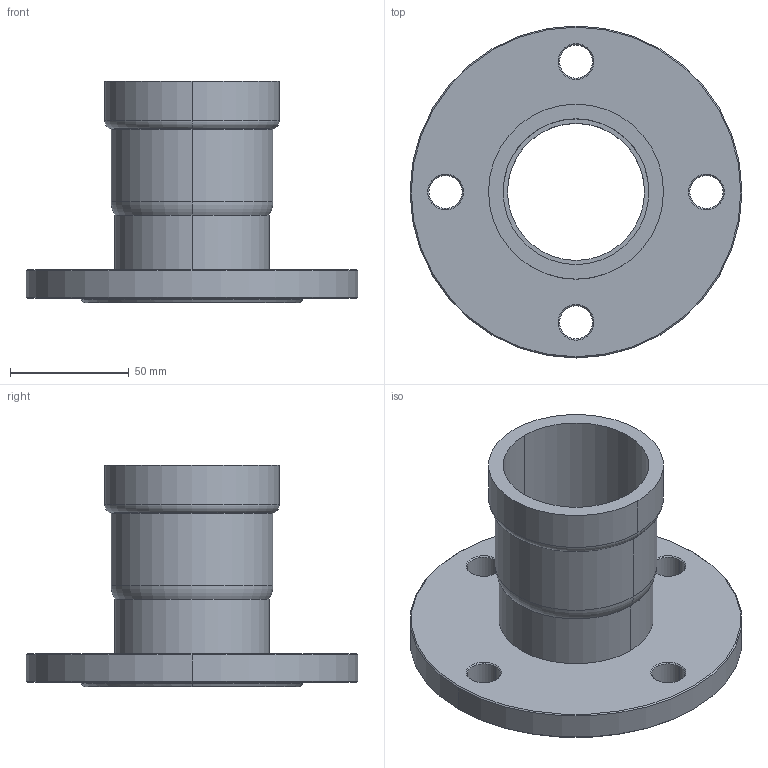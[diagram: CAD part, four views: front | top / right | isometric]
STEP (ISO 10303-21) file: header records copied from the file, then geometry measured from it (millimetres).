
FILE_DESCRIPTION(('Creo Elements/Direct Modeling STEP Export'),'2;1');
FILE_NAME('C9426_2.stp','2020-07-17T11:17:31',(''),(''),'PTC Creo Elements/Direct Modeling STEP processor for AP214 (Solid Model)','PTC Creo Elements/Direct Modeling 19.0C 15-Aug-2015 (C) Parametric Technology GmbH','');
FILE_SCHEMA(('AUTOMOTIVE_DESIGN { 1 0 10303 214 1 1 1 1 }'));
Length unit declared in the file: millimetre
Products named in the file (2): C9426_2
Assembly tree (1 placements, depth 2):
  C9426_2
    C9426_2
Bounding box: 140 x 140 x 93.62 mm (x, y, z)
Volume: 220767.5 mm3; surface area: 67945.2 mm2
Topology: 1 solids, 1 shells, 84 faces, 187 edges, 113 vertices
Faces by surface type: torus 26, cone 24, cylinder 20, plane 14
Entity records: 2285 total; most frequent: CARTESIAN_POINT 492, ORIENTED_EDGE 374, DIRECTION 366, EDGE_CURVE 187, AXIS2_PLACEMENT_3D 161, VERTEX_POINT 113, EDGE_LOOP 102, FACE_OUTER_BOUND 84
